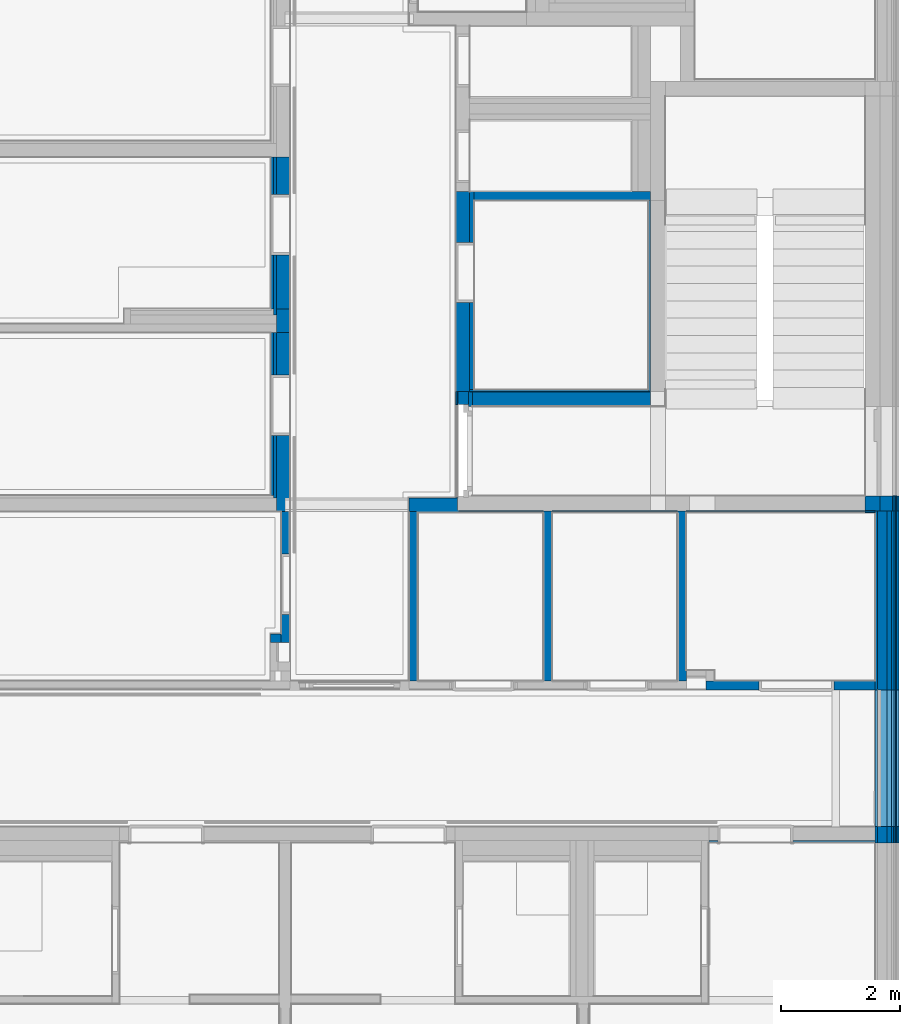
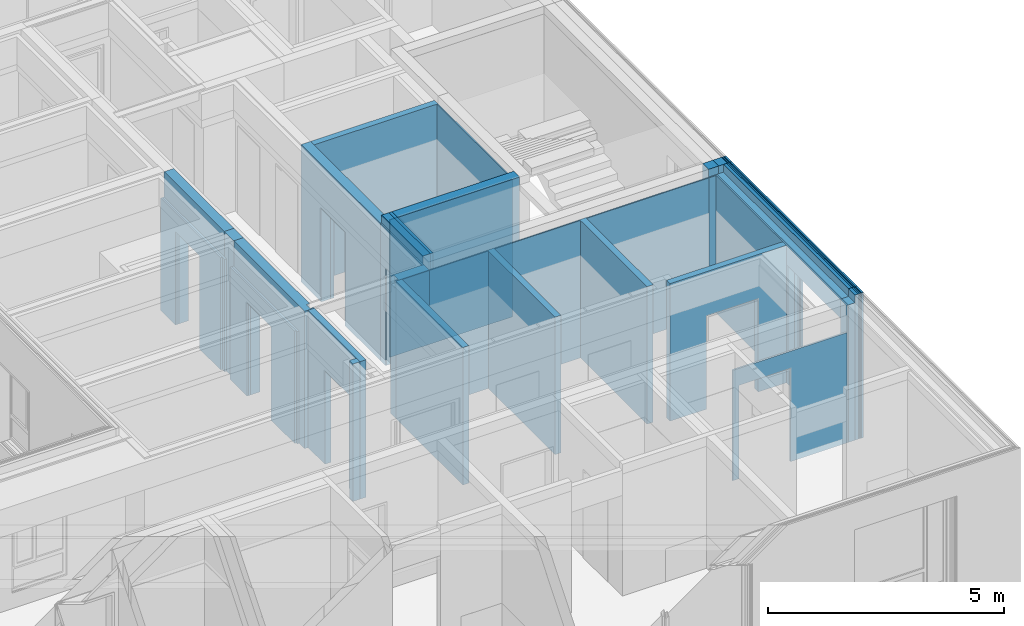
# One storey, part 51 of 222: 47 walls, 21 openings.
"""IFC4 building model written with IfcOpenShell, lengths in metres."""

from ifc_helpers import new_model, entity, si_unit, converted_unit, derived_unit, frame, frame_2d, origin, origin_with_axes, place, context, subcontext, project, spatial, polyline, rectangle, outline, extrude, clip, bounded_halfspace, material, element, save


model = new_model("IFC4")

# Units and contexts
model_context = context("Model", 3, precision=1e-05, world=origin())
body_context = subcontext(model_context, "Body", "Model", "MODEL_VIEW")
ifc_project = project(units=[si_unit("LENGTHUNIT", "METRE"), si_unit("AREAUNIT", "SQUARE_METRE"), si_unit("VOLUMEUNIT", "CUBIC_METRE"), si_unit("MASSUNIT", "GRAM", prefix="KILO"), converted_unit("PLANEANGLEUNIT", "DEGREE", entity("IfcPlaneAngleMeasure", 0.0174532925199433), si_unit("PLANEANGLEUNIT", "RADIAN"), dimensions=[0, 0, 0, 0, 0, 0, 0]), derived_unit("THERMALTRANSMITTANCEUNIT", [(si_unit("POWERUNIT", "WATT"), 1), (si_unit("THERMODYNAMICTEMPERATUREUNIT", "KELVIN"), -1), (si_unit("LENGTHUNIT", "METRE"), -2)]), derived_unit("VOLUMETRICFLOWRATEUNIT", [(si_unit("LENGTHUNIT", "METRE"), 3), (converted_unit("TIMEUNIT", "hour", entity("IfcTimeMeasure", 3600.0), si_unit("TIMEUNIT", "SECOND"), dimensions=[0, 0, 1, 0, 0, 0, 0]), -1), (si_unit("LENGTHUNIT", "METRE"), -1)])], contexts=[model_context])

# Site, building, storey
site_placement = place(None, origin())
site = spatial("IfcSite", under=ifc_project, at=site_placement, Name="Psychiatrie Neubau Wunstorf", CompositionType="ELEMENT")
building_placement = place(site_placement, origin())
building = spatial("IfcBuilding", under=site, at=building_placement, Name="Neubau H2 Stationsgebäude", CompositionType="ELEMENT")
storey_placement = place(building_placement, frame((0.0, 0.0, 3.6)))
storey = spatial("IfcBuildingStorey", under=building, at=storey_placement, Name="H2 Ebene +1", CompositionType="ELEMENT", Elevation=3.6)

# Wall, opening
ifc_material_1 = material(Name="WA-LB")
wall_1_placement = place(storey_placement, frame((105.889, 10.6249998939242, 0.0), z_axis=(0.0, 0.0, 1.0), x_axis=(0.0, -1.0, 0.0)))
wall_1 = element("IfcWall", 1, at=wall_1_placement, inside=storey, material=ifc_material_1, context=body_context, shape_type="SweptSolid", body=[
    extrude(rectangle(XDim=5.29249989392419, YDim=0.036, at=frame_2d((2.6462499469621, 0.018), x_axis=(1.0, 0.0))), origin_with_axes(), (0.0, 0.0, 1.0), 3.55),
])
opening_1_placement = place(wall_1_placement, frame((3.00624994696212, 0.0, 0.55), z_axis=(0.0, 1.0, 0.0), x_axis=(0.0, 0.0, 1.0)))
element("IfcOpeningElement", 2, at=opening_1_placement, cuts=wall_1, Name="Fensteröffnung", ObjectType="Opening", context=body_context, shape_type="SweptSolid", body=[
    extrude(outline(polyline([(2.5, 2.28), (2.5, 0.0), (0.0, 0.0), (0.0, 2.28), (2.5, 2.28)])), origin_with_axes(), (0.0, 0.0, 1.0), 0.036),
])

ifc_material_2 = material(Name="WA-HD")
wall_2_placement = place(storey_placement, frame((105.925, 10.6249998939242, 0.0), z_axis=(0.0, 0.0, 1.0), x_axis=(0.0, -1.0, 0.0)))
wall_2 = element("IfcWall", 3, at=wall_2_placement, inside=storey, material=ifc_material_2, context=body_context, shape_type="SweptSolid", body=[
    extrude(rectangle(XDim=5.29249989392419, YDim=0.16, at=frame_2d((2.6462499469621, 0.08), x_axis=(1.0, 0.0))), origin_with_axes(), (0.0, 0.0, 1.0), 3.55),
])
opening_2_placement = place(wall_2_placement, frame((3.00624994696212, 0.0, 0.55), z_axis=(0.0, 1.0, 0.0), x_axis=(0.0, 0.0, 1.0)))
element("IfcOpeningElement", 4, at=opening_2_placement, cuts=wall_2, Name="Fensteröffnung", ObjectType="Opening", context=body_context, shape_type="SweptSolid", body=[
    extrude(outline(polyline([(2.5, 2.28), (2.5, 0.0), (0.0, 0.0), (0.0, 2.28), (2.5, 2.28)])), origin_with_axes(), (0.0, 0.0, 1.0), 0.16),
])

ifc_material_3 = material(Name="WA-DL")
wall_3_placement = place(storey_placement, frame((106.085, 10.6249998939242, 0.0), z_axis=(0.0, 0.0, 1.0), x_axis=(0.0, -1.0, 0.0)))
wall_3 = element("IfcWall", 5, at=wall_3_placement, inside=storey, material=ifc_material_3, context=body_context, shape_type="SweptSolid", body=[
    extrude(rectangle(XDim=5.29249989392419, YDim=0.08, at=frame_2d((2.6462499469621, 0.04), x_axis=(1.0, 0.0))), origin_with_axes(), (0.0, 0.0, 1.0), 3.75),
])
opening_3_placement = place(wall_3_placement, frame((3.00624994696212, 0.0, 0.55), z_axis=(0.0, 1.0, 0.0), x_axis=(0.0, 0.0, 1.0)))
element("IfcOpeningElement", 6, at=opening_3_placement, cuts=wall_3, Name="Fensteröffnung", ObjectType="Opening", context=body_context, shape_type="SweptSolid", body=[
    extrude(outline(polyline([(2.5, 2.28), (2.5, 0.0), (0.0, 0.0), (0.0, 2.28), (2.5, 2.28)])), origin_with_axes(), (0.0, 0.0, 1.0), 0.08),
])

ifc_material_4 = material(Name="WA-LB")
wall_4_placement = place(storey_placement, frame((106.165, 10.6249998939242, 0.0), z_axis=(0.0, 0.0, 1.0), x_axis=(0.0, -1.0, 0.0)))
wall_4 = element("IfcWall", 7, at=wall_4_placement, inside=storey, material=ifc_material_4, context=body_context, shape_type="SweptSolid", body=[
    extrude(rectangle(XDim=5.29249989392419, YDim=0.036, at=frame_2d((2.6462499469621, 0.018), x_axis=(1.0, 0.0))), origin_with_axes(), (0.0, 0.0, 1.0), 3.75),
])
opening_4_placement = place(wall_4_placement, frame((3.00624994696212, 0.0, 0.55), z_axis=(0.0, 1.0, 0.0), x_axis=(0.0, 0.0, 1.0)))
element("IfcOpeningElement", 8, at=opening_4_placement, cuts=wall_4, Name="Fensteröffnung", ObjectType="Opening", context=body_context, shape_type="SweptSolid", body=[
    extrude(outline(polyline([(2.5, 2.28), (2.5, 0.0), (0.0, 0.0), (0.0, 2.28), (2.5, 2.28)])), origin_with_axes(), (0.0, 0.0, 1.0), 0.036),
])

ifc_material_5 = material(Name="WA-KL")
wall_5_placement = place(storey_placement, frame((106.201, 10.6249998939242, 0.0), z_axis=(0.0, 0.0, 1.0), x_axis=(0.0, -1.0, 0.0)))
wall_5 = element("IfcWall", 9, at=wall_5_placement, inside=storey, material=ifc_material_5, context=body_context, shape_type="SweptSolid", body=[
    extrude(rectangle(XDim=5.29249989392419, YDim=0.024, at=frame_2d((2.6462499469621, 0.012), x_axis=(1.0, 0.0))), origin_with_axes(), (0.0, 0.0, 1.0), 3.75),
])
opening_5_placement = place(wall_5_placement, frame((3.00624994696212, 0.0, 0.55), z_axis=(0.0, 1.0, 0.0), x_axis=(0.0, 0.0, 1.0)))
element("IfcOpeningElement", 10, at=opening_5_placement, cuts=wall_5, Name="Fensteröffnung", ObjectType="Opening", context=body_context, shape_type="SweptSolid", body=[
    extrude(outline(polyline([(2.5, 2.28), (2.5, 0.0), (0.0, 0.0), (0.0, 2.28), (2.5, 2.28)])), origin_with_axes(), (0.0, 0.0, 1.0), 0.024),
])

ifc_material_6 = material(Name="WA-TL")
wall_6_placement = place(storey_placement, frame((106.225, 10.6249998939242, 0.0), z_axis=(0.0, 0.0, 1.0), x_axis=(0.0, -1.0, 0.0)))
wall_6 = element("IfcWall", 11, at=wall_6_placement, inside=storey, material=ifc_material_6, context=body_context, shape_type="SweptSolid", body=[
    extrude(rectangle(XDim=5.29249989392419, YDim=0.024, at=frame_2d((2.6462499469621, 0.012), x_axis=(1.0, 0.0))), origin_with_axes(), (0.0, 0.0, 1.0), 3.75),
])
opening_6_placement = place(wall_6_placement, frame((3.00624994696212, 0.0, 0.55), z_axis=(0.0, 1.0, 0.0), x_axis=(0.0, 0.0, 1.0)))
element("IfcOpeningElement", 12, at=opening_6_placement, cuts=wall_6, Name="Fensteröffnung", ObjectType="Opening", context=body_context, shape_type="SweptSolid", body=[
    extrude(outline(polyline([(2.5, 2.28), (2.5, 0.0), (0.0, 0.0), (0.0, 2.28), (2.5, 2.28)])), origin_with_axes(), (0.0, 0.0, 1.0), 0.024),
])

ifc_material_7 = material(Name="WA-HS")
wall_7_placement = place(storey_placement, frame((106.249, 10.6249998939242, 0.0), z_axis=(0.0, 0.0, 1.0), x_axis=(0.0, -1.0, 0.0)))
wall_7 = element("IfcWall", 13, at=wall_7_placement, inside=storey, material=ifc_material_7, context=body_context, shape_type="SweptSolid", body=[
    extrude(rectangle(XDim=5.29249989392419, YDim=0.042, at=frame_2d((2.6462499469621, 0.021), x_axis=(1.0, 0.0))), origin_with_axes(), (0.0, 0.0, 1.0), 3.75),
])
opening_7_placement = place(wall_7_placement, frame((3.00624994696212, 0.0, 0.55), z_axis=(0.0, 1.0, 0.0), x_axis=(0.0, 0.0, 1.0)))
element("IfcOpeningElement", 14, at=opening_7_placement, cuts=wall_7, Name="Fensteröffnung", ObjectType="Opening", context=body_context, shape_type="SweptSolid", body=[
    extrude(outline(polyline([(2.5, 2.28), (2.5, 0.0), (0.0, 0.0), (0.0, 2.28), (2.5, 2.28)])), origin_with_axes(), (0.0, 0.0, 1.0), 0.042),
])

# Walls
ifc_material_8 = material(Name="WA-LB")
wall_8_placement = place(storey_placement, frame((105.889, 5.33250000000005, 0.0), z_axis=(0.0, 0.0, 1.0), x_axis=(0.0, -1.0, 0.0)))
element("IfcWall", 15, at=wall_8_placement, inside=storey, material=ifc_material_8, Name="2x Gipsfaserplatte", context=body_context, shape_type="SweptSolid", body=[
    extrude(rectangle(XDim=0.271999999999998, YDim=0.036, at=frame_2d((0.135999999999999, 0.018), x_axis=(1.0, 0.0))), origin_with_axes(), (0.0, 0.0, 1.0), 3.55),
])
ifc_material_9 = material(Name="WA-HD")
wall_9_placement = place(storey_placement, frame((105.925, 5.33250000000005, 0.0), z_axis=(0.0, 0.0, 1.0), x_axis=(0.0, -1.0, 0.0)))
element("IfcWall", 16, at=wall_9_placement, inside=storey, material=ifc_material_9, Name="Holzständer + Zwischendämmung", context=body_context, shape_type="SweptSolid", body=[
    extrude(rectangle(XDim=0.271999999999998, YDim=0.16, at=frame_2d((0.135999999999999, 0.08), x_axis=(1.0, 0.0))), origin_with_axes(), (0.0, 0.0, 1.0), 3.55),
])
ifc_material_10 = material(Name="WA-DL")
wall_10_placement = place(storey_placement, frame((106.085, 5.33250000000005, 0.0), z_axis=(0.0, 0.0, 1.0), x_axis=(0.0, -1.0, 0.0)))
element("IfcWall", 17, at=wall_10_placement, inside=storey, material=ifc_material_10, Name="Staffel + Zwischendämmung", context=body_context, shape_type="SweptSolid", body=[
    extrude(rectangle(XDim=0.271999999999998, YDim=0.08, at=frame_2d((0.135999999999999, 0.04), x_axis=(1.0, 0.0))), origin_with_axes(), (0.0, 0.0, 1.0), 3.75),
])
ifc_material_11 = material(Name="WA-LB")
wall_11_placement = place(storey_placement, frame((106.165, 5.33250000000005, 0.0), z_axis=(0.0, 0.0, 1.0), x_axis=(0.0, -1.0, 0.0)))
element("IfcWall", 18, at=wall_11_placement, inside=storey, material=ifc_material_11, context=body_context, shape_type="SweptSolid", body=[
    extrude(rectangle(XDim=0.271999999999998, YDim=0.036, at=frame_2d((0.135999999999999, 0.018), x_axis=(1.0, 0.0))), origin_with_axes(), (0.0, 0.0, 1.0), 3.75),
])
ifc_material_12 = material(Name="WA-KL")
wall_12_placement = place(storey_placement, frame((106.201, 5.33250000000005, 0.0), z_axis=(0.0, 0.0, 1.0), x_axis=(0.0, -1.0, 0.0)))
element("IfcWall", 19, at=wall_12_placement, inside=storey, material=ifc_material_12, Name="Konterlattung", context=body_context, shape_type="SweptSolid", body=[
    extrude(rectangle(XDim=0.271999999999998, YDim=0.024, at=frame_2d((0.135999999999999, 0.012), x_axis=(1.0, 0.0))), origin_with_axes(), (0.0, 0.0, 1.0), 3.75),
])
ifc_material_13 = material(Name="WA-TL")
wall_13_placement = place(storey_placement, frame((106.225, 5.33250000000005, 0.0), z_axis=(0.0, 0.0, 1.0), x_axis=(0.0, -1.0, 0.0)))
element("IfcWall", 20, at=wall_13_placement, inside=storey, material=ifc_material_13, Name="Traglattung", context=body_context, shape_type="SweptSolid", body=[
    extrude(rectangle(XDim=0.271999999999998, YDim=0.024, at=frame_2d((0.135999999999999, 0.012), x_axis=(1.0, 0.0))), origin_with_axes(), (0.0, 0.0, 1.0), 3.75),
])
ifc_material_14 = material(Name="WA-HS")
wall_14_placement = place(storey_placement, frame((106.249, 5.33250000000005, 0.0), z_axis=(0.0, 0.0, 1.0), x_axis=(0.0, -1.0, 0.0)))
element("IfcWall", 21, at=wall_14_placement, inside=storey, material=ifc_material_14, Name="Holzschindel", context=body_context, shape_type="SweptSolid", body=[
    extrude(rectangle(XDim=0.271999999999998, YDim=0.042, at=frame_2d((0.135999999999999, 0.021), x_axis=(1.0, 0.0))), origin_with_axes(), (0.0, 0.0, 1.0), 3.75),
])
ifc_material_15 = material(Name="WA-STB")
wall_15_placement = place(storey_placement, frame((105.72, 10.8749998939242, 0.0), z_axis=(0.0, 0.0, 1.0), x_axis=(0.0, -1.0, 0.0)))
element("IfcWall", 22, at=wall_15_placement, inside=storey, material=ifc_material_15, context=body_context, shape_type="SweptSolid", body=[
    extrude(rectangle(XDim=0.249999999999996, YDim=0.25, at=frame_2d((0.124999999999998, 0.125), x_axis=(1.0, 0.0))), origin_with_axes(), (0.0, 0.0, 1.0), 3.75),
])
ifc_material_16 = material(Name="WA-DL")
wall_16_placement = place(storey_placement, frame((105.97, 10.8749998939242, 0.0), z_axis=(0.0, 0.0, 1.0), x_axis=(0.0, -1.0, 0.0)))
element("IfcWall", 23, at=wall_16_placement, inside=storey, material=ifc_material_16, context=body_context, shape_type="SweptSolid", body=[
    extrude(rectangle(XDim=0.249999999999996, YDim=0.21, at=frame_2d((0.124999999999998, 0.105), x_axis=(1.0, 0.0))), origin_with_axes(), (0.0, 0.0, 1.0), 3.75),
])
ifc_material_17 = material(Name="WA-LB")
wall_17_placement = place(storey_placement, frame((106.18, 10.8749998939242, 0.0), z_axis=(0.0, 0.0, 1.0), x_axis=(0.0, -1.0, 0.0)))
element("IfcWall", 24, at=wall_17_placement, inside=storey, material=ifc_material_17, context=body_context, shape_type="SweptSolid", body=[
    extrude(rectangle(XDim=0.249999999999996, YDim=0.021, at=frame_2d((0.124999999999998, 0.0105), x_axis=(1.0, 0.0))), origin_with_axes(), (0.0, 0.0, 1.0), 3.75),
])
ifc_material_18 = material(Name="WA-KL")
wall_18_placement = place(storey_placement, frame((106.201, 10.8749998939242, 0.0), z_axis=(0.0, 0.0, 1.0), x_axis=(0.0, -1.0, 0.0)))
element("IfcWall", 25, at=wall_18_placement, inside=storey, material=ifc_material_18, context=body_context, shape_type="SweptSolid", body=[
    extrude(rectangle(XDim=0.249999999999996, YDim=0.024, at=frame_2d((0.124999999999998, 0.012), x_axis=(1.0, 0.0))), origin_with_axes(), (0.0, 0.0, 1.0), 3.75),
])
ifc_material_19 = material(Name="WA-TL")
wall_19_placement = place(storey_placement, frame((106.225, 10.8749998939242, 0.0), z_axis=(0.0, 0.0, 1.0), x_axis=(0.0, -1.0, 0.0)))
element("IfcWall", 26, at=wall_19_placement, inside=storey, material=ifc_material_19, context=body_context, shape_type="SweptSolid", body=[
    extrude(rectangle(XDim=0.249999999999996, YDim=0.024, at=frame_2d((0.124999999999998, 0.012), x_axis=(1.0, 0.0))), origin_with_axes(), (0.0, 0.0, 1.0), 3.75),
])
ifc_material_20 = material(Name="WA-HS")
wall_20_placement = place(storey_placement, frame((106.249, 10.8749998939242, 0.0), z_axis=(0.0, 0.0, 1.0), x_axis=(0.0, -1.0, 0.0)))
element("IfcWall", 27, at=wall_20_placement, inside=storey, material=ifc_material_20, context=body_context, shape_type="SweptSolid", body=[
    extrude(rectangle(XDim=0.249999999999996, YDim=0.042, at=frame_2d((0.124999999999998, 0.021), x_axis=(1.0, 0.0))), origin_with_axes(), (0.0, 0.0, 1.0), 3.75),
])
ifc_material_21 = material(Name="WI-LB")
wall_21_placement = place(storey_placement, frame((102.12, 15.9749998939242, 0.0), z_axis=(0.0, 0.0, 1.0), x_axis=(-1.0, 0.0, 0.0)))
element("IfcWall", 28, at=wall_21_placement, inside=storey, material=ifc_material_21, context=body_context, shape_type="SweptSolid", body=[
    extrude(rectangle(XDim=3.029, YDim=0.15, at=frame_2d((1.5145, 0.075), x_axis=(1.0, 0.0))), origin_with_axes(), (0.0, 0.0, 1.0), 3.55),
])
ifc_material_22 = material(Name="WI-LB")
wall_22_placement = place(storey_placement, frame((102.575, 10.6249998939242, 0.0), z_axis=(0.0, 0.0, 1.0), x_axis=(0.0, -1.0, 0.0)))
element("IfcWall", 29, at=wall_22_placement, inside=storey, material=ifc_material_22, context=body_context, shape_type="SweptSolid", body=[
    extrude(rectangle(XDim=2.85000000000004, YDim=0.15, at=frame_2d((1.42500000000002, 0.075), x_axis=(1.0, 0.0))), origin_with_axes(), (0.0, 0.0, 1.0), 3.55),
])
ifc_material_23 = material(Name="WI-LB")
wall_23_placement = place(storey_placement, frame((100.325, 10.6249998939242, 0.0), z_axis=(0.0, 0.0, 1.0), x_axis=(0.0, -1.0, 0.0)))
element("IfcWall", 30, at=wall_23_placement, inside=storey, material=ifc_material_23, context=body_context, shape_type="SweptSolid", body=[
    extrude(rectangle(XDim=2.85000000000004, YDim=0.15, at=frame_2d((1.42500000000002, 0.075), x_axis=(1.0, 0.0))), origin_with_axes(), (0.0, 0.0, 1.0), 3.55),
])
ifc_material_24 = material(Name="WI-LB")
wall_24_placement = place(storey_placement, frame((99.0909999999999, 12.6250013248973, 0.0), z_axis=(0.0, 0.0, 1.0), x_axis=(0.999999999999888, -4.72424244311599e-07, 0.0)))
element("IfcWall", 31, at=wall_24_placement, inside=storey, material=ifc_material_24, context=body_context, shape_type="SweptSolid", body=[
    extrude(rectangle(XDim=2.99900036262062, YDim=0.0299996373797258, at=frame_2d((1.49950018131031, 0.0149998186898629), x_axis=(1.0, 0.0))), origin_with_axes(), (0.0, 0.0, 1.0), 3.55),
])
ifc_material_25 = material(Name="WI-HW 60")
wall_25_placement = place(storey_placement, frame((96.0824999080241, 13.6109999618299, 0.0), z_axis=(0.0, 0.0, 1.0), x_axis=(0.0, 1.0, 0.0)))
element("IfcWall", 32, at=wall_25_placement, inside=storey, material=ifc_material_25, context=body_context, shape_type="SweptSolid", body=[
    extrude(rectangle(XDim=0.4, YDim=0.232, at=frame_2d((0.2, 0.116), x_axis=(1.0, 0.0))), origin_with_axes(), (0.0, 0.0, 1.0), 3.55),
])

# Wall, opening
ifc_material_26 = material(Name="WI-LB")
wall_26_placement = place(storey_placement, frame((95.7609999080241, 13.6109999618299, 0.0), z_axis=(0.0, 0.0, 1.0), x_axis=(0.0, -1.0, 0.0)))
wall_26 = element("IfcWall", 33, at=wall_26_placement, inside=storey, material=ifc_material_26, context=body_context, shape_type="SweptSolid", body=[
    extrude(rectangle(XDim=2.72850006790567, YDim=0.0395, at=frame_2d((1.36425003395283, 0.01975), x_axis=(1.0, 0.0))), origin_with_axes(), (0.0, 0.0, 1.0), 2.9),
])
opening_8_placement = place(wall_26_placement, frame((1.72099996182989, 0.0395, 0.0), z_axis=(0.0, -1.0, 0.0), x_axis=(0.0, 0.0, 1.0)))
element("IfcOpeningElement", 34, at=opening_8_placement, cuts=wall_26, Name="Türöffnung", ObjectType="Opening", context=body_context, shape_type="SweptSolid", body=[
    extrude(outline(polyline([(2.41, 1.01), (2.41, 0.0), (0.0, 0.0), (0.0, 1.01), (2.41, 1.01)])), origin_with_axes(), (0.0, 0.0, 1.0), 0.0395),
])

ifc_material_27 = material(Name="Installationsraum")
wall_27_placement = place(storey_placement, frame((95.8004999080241, 13.6109999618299, 0.0), z_axis=(0.0, 0.0, 1.0), x_axis=(0.0, -1.0, 0.0)))
wall_27 = element("IfcWall", 35, at=wall_27_placement, inside=storey, material=ifc_material_27, context=body_context, shape_type="SweptSolid", body=[
    extrude(rectangle(XDim=2.76850006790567, YDim=0.05, at=frame_2d((1.38425003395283, 0.025), x_axis=(1.0, 0.0))), origin_with_axes(), (0.0, 0.0, 1.0), 2.9),
])
opening_9_placement = place(wall_27_placement, frame((1.72099996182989, 0.05, 0.0), z_axis=(0.0, -1.0, 0.0), x_axis=(0.0, 0.0, 1.0)))
element("IfcOpeningElement", 36, at=opening_9_placement, cuts=wall_27, Name="Türöffnung", ObjectType="Opening", context=body_context, shape_type="SweptSolid", body=[
    extrude(outline(polyline([(2.41, 1.01), (2.41, 0.0), (0.0, 0.0), (0.0, 1.01), (2.41, 1.01)])), origin_with_axes(), (0.0, 0.0, 1.0), 0.05),
])

ifc_material_28 = material(Name="WI-HW 60")
wall_28_placement = place(storey_placement, frame((95.8504999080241, 13.6109999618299, 0.0), z_axis=(0.0, 0.0, 1.0), x_axis=(0.0, -1.0, 0.0)))
wall_28 = element("IfcWall", 37, at=wall_28_placement, inside=storey, material=ifc_material_28, context=body_context, shape_type="Clipping", body=[
    clip(extrude(rectangle(XDim=3.00050006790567, YDim=0.232, at=frame_2d((1.50025003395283, 0.116), x_axis=(1.0, 0.0))), origin_with_axes(), (0.0, 0.0, 1.0), 3.55), bounded_halfspace(frame((2.88449781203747, 0.190751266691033, 3.35), z_axis=(0.0, 0.0, -1.0), x_axis=(1.0, 0.0, 0.0)), True, origin_with_axes(), polyline([(2.80449781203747, 0.149502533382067), (2.96449781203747, 0.149502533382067), (2.96449781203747, 0.232), (2.80449781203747, 0.232), (2.80449781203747, 0.149502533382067)]))),
])
opening_10_placement = place(wall_28_placement, frame((1.72099996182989, 0.232, 0.0), z_axis=(0.0, -1.0, 0.0), x_axis=(0.0, 0.0, 1.0)))
element("IfcOpeningElement", 38, at=opening_10_placement, cuts=wall_28, Name="Türöffnung", ObjectType="Opening", context=body_context, shape_type="SweptSolid", body=[
    extrude(outline(polyline([(2.41, 1.01), (2.41, 0.0), (0.0, 0.0), (0.0, 1.01), (2.41, 1.01)])), origin_with_axes(), (0.0, 0.0, 1.0), 0.232),
])

ifc_material_29 = material(Name="WI-LB")
wall_29_placement = place(storey_placement, frame((95.7609999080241, 16.5535, 0.0), z_axis=(0.0, 0.0, 1.0), x_axis=(0.0, -1.0, 0.0)))
wall_29 = element("IfcWall", 39, at=wall_29_placement, inside=storey, material=ifc_material_29, context=body_context, shape_type="SweptSolid", body=[
    extrude(rectangle(XDim=2.54250003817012, YDim=0.0395, at=frame_2d((1.27125001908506, 0.01975), x_axis=(1.0, 0.0))), origin_with_axes(), (0.0, 0.0, 1.0), 2.9),
])
opening_11_placement = place(wall_29_placement, frame((1.63849999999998, 0.0395, 0.0), z_axis=(0.0, -1.0, 0.0), x_axis=(0.0, 0.0, 1.0)))
element("IfcOpeningElement", 40, at=opening_11_placement, cuts=wall_29, Name="Türöffnung", ObjectType="Opening", context=body_context, shape_type="SweptSolid", body=[
    extrude(outline(polyline([(2.41, 1.01), (2.41, 0.0), (0.0, 0.0), (0.0, 1.01), (2.41, 1.01)])), origin_with_axes(), (0.0, 0.0, 1.0), 0.0395),
])

ifc_material_30 = material(Name="Installationsraum")
wall_30_placement = place(storey_placement, frame((95.8004999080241, 16.5535, 0.0), z_axis=(0.0, 0.0, 1.0), x_axis=(0.0, -1.0, 0.0)))
wall_30 = element("IfcWall", 41, at=wall_30_placement, inside=storey, material=ifc_material_30, context=body_context, shape_type="SweptSolid", body=[
    extrude(rectangle(XDim=2.64250003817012, YDim=0.05, at=frame_2d((1.32125001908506, 0.025), x_axis=(1.0, 0.0))), origin_with_axes(), (0.0, 0.0, 1.0), 2.9),
])
opening_12_placement = place(wall_30_placement, frame((1.63849999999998, 0.05, 0.0), z_axis=(0.0, -1.0, 0.0), x_axis=(0.0, 0.0, 1.0)))
element("IfcOpeningElement", 42, at=opening_12_placement, cuts=wall_30, Name="Türöffnung", ObjectType="Opening", context=body_context, shape_type="SweptSolid", body=[
    extrude(outline(polyline([(2.41, 1.01), (2.41, 0.0), (0.0, 0.0), (0.0, 1.01), (2.41, 1.01)])), origin_with_axes(), (0.0, 0.0, 1.0), 0.05),
])

ifc_material_31 = material(Name="WI-HW 60")
wall_31_placement = place(storey_placement, frame((95.8504999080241, 16.5535, 0.0), z_axis=(0.0, 0.0, 1.0), x_axis=(0.0, -1.0, 0.0)))
wall_31 = element("IfcWall", 43, at=wall_31_placement, inside=storey, material=ifc_material_31, context=body_context, shape_type="SweptSolid", body=[
    extrude(rectangle(XDim=2.54250003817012, YDim=0.232, at=frame_2d((1.27125001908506, 0.116), x_axis=(1.0, 0.0))), origin_with_axes(), (0.0, 0.0, 1.0), 3.55),
])
opening_13_placement = place(wall_31_placement, frame((1.63849999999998, 0.232, 0.0), z_axis=(0.0, -1.0, 0.0), x_axis=(0.0, 0.0, 1.0)))
element("IfcOpeningElement", 44, at=opening_13_placement, cuts=wall_31, Name="Türöffnung", ObjectType="Opening", context=body_context, shape_type="SweptSolid", body=[
    extrude(outline(polyline([(2.41, 1.01), (2.41, 0.0), (0.0, 0.0), (0.0, 1.01), (2.41, 1.01)])), origin_with_axes(), (0.0, 0.0, 1.0), 0.232),
])

# Walls
ifc_material_32 = material(Name="WI-LB")
wall_32_placement = place(storey_placement, frame((98.075, 10.6105021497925, 0.0), z_axis=(0.0, 0.0, 1.0), x_axis=(0.0, -1.0, 0.0)))
element("IfcWall", 45, at=wall_32_placement, inside=storey, material=ifc_material_32, context=body_context, shape_type="SweptSolid", body=[
    extrude(rectangle(XDim=2.83550225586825, YDim=0.15, at=frame_2d((1.41775112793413, 0.075), x_axis=(1.0, 0.0))), origin_with_axes(), (0.0, 0.0, 1.0), 3.55),
])
ifc_material_33 = material(Name="WI-LB")
wall_33_placement = place(storey_placement, frame((98.225, 10.5950021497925, 0.0)))
element("IfcWall", 46, at=wall_33_placement, inside=storey, material=ifc_material_33, context=body_context, shape_type="SweptSolid", body=[
    extrude(rectangle(XDim=0.664000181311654, YDim=0.0155, at=frame_2d((0.332000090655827, 0.00775), x_axis=(1.0, 0.0))), origin_with_axes(), (0.0, 0.0, 1.0), 3.55),
])
ifc_material_34 = material(Name="WI-HW 60")
wall_34_placement = place(storey_placement, frame((98.075, 10.6105021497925, 0.0)))
element("IfcWall", 47, at=wall_34_placement, inside=storey, material=ifc_material_34, context=body_context, shape_type="Clipping", body=[
    clip(extrude(rectangle(XDim=0.814000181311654, YDim=0.232, at=frame_2d((0.407000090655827, 0.116), x_axis=(1.0, 0.0))), origin_with_axes(), (0.0, 0.0, 1.0), 3.55), bounded_halfspace(frame((0.037501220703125, 0.115999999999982, 3.35), z_axis=(0.0, 0.0, -1.0), x_axis=(0.0, -1.0, 0.0)), True, origin_with_axes(), polyline([(0.0, 0.195999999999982), (0.0, 0.0359999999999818), (0.0750024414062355, 0.0359999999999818), (0.0750024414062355, 0.195999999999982), (0.0, 0.195999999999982)]))),
])

# Wall, opening
ifc_material_35 = material(Name="WI-LB")
wall_35_placement = place(storey_placement, frame((95.93250003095, 10.6104998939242, 0.0), z_axis=(0.0, 0.0, 1.0), x_axis=(0.0, -1.0, 0.0)))
wall_35 = element("IfcWall", 48, at=wall_35_placement, inside=storey, material=ifc_material_35, context=body_context, shape_type="SweptSolid", body=[
    extrude(outline(polyline([(-2.19550000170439, 0.0), (0.0, 0.0), (0.0, 0.14999999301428), (-2.19550000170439, 0.149999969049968), (-2.19550000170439, 0.0)])), frame((2.19550000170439, 0.0, 0.0), z_axis=(0.0, 0.0, 1.0), x_axis=(1.0, 0.0, 0.0)), (0.0, 0.0, 1.0), 3.55),
])
opening_14_placement = place(wall_35_placement, frame((1.72049989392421, 0.15, 0.0), z_axis=(0.0, -1.0, 0.0), x_axis=(0.0, 0.0, 1.0)))
element("IfcOpeningElement", 49, at=opening_14_placement, cuts=wall_35, Name="Türöffnung", ObjectType="Opening", context=body_context, shape_type="SweptSolid", body=[
    extrude(outline(polyline([(2.41, 1.01), (2.41, 0.0), (0.0, 0.0), (0.0, 1.01), (2.41, 1.01)])), origin_with_axes(), (0.0, 0.0, 1.0), 0.15),
])

ifc_material_36 = material(Name="WI-LB")
wall_36_placement = place(storey_placement, frame((103.05, 7.6249998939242, 0.0)))
wall_36 = element("IfcWall", 50, at=wall_36_placement, inside=storey, material=ifc_material_36, context=body_context, shape_type="SweptSolid", body=[
    extrude(rectangle(XDim=2.83899999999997, YDim=0.15, at=frame_2d((1.41949999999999, 0.075), x_axis=(1.0, 0.0))), origin_with_axes(), (0.0, 0.0, 1.0), 3.55),
])
opening_15_placement = place(wall_36_placement, frame((2.14999999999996, 0.15, 0.0), z_axis=(0.0, -1.0, 0.0), x_axis=(0.0, 0.0, 1.0)))
element("IfcOpeningElement", 51, at=opening_15_placement, cuts=wall_36, Name="Türöffnung", ObjectType="Opening", context=body_context, shape_type="SweptSolid", body=[
    extrude(outline(polyline([(2.41, 1.26), (2.41, 0.0), (0.0, 0.0), (0.0, 1.26), (2.41, 1.26)])), origin_with_axes(), (0.0, 0.0, 1.0), 0.15),
])

ifc_material_37 = material(Name="WI-STB")
wall_37_placement = place(storey_placement, frame((99.1389999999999, 10.8749998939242, 0.0), z_axis=(0.0, 0.0, 1.0), x_axis=(0.0, 1.0, 0.0)))
wall_37 = element("IfcWall", 52, at=wall_37_placement, inside=storey, material=ifc_material_37, context=body_context, shape_type="SweptSolid", body=[
    extrude(rectangle(XDim=1.75000140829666, YDim=0.07, at=frame_2d((0.87500070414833, 0.035), x_axis=(1.0, 0.0))), origin_with_axes(), (0.0, 0.0, 1.0), 3.75),
])
opening_16_placement = place(wall_37_placement, frame((1.49999999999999, 0.07, 0.0), z_axis=(0.0, -1.0, 0.0), x_axis=(0.0, 0.0, 1.0)))
element("IfcOpeningElement", 53, at=opening_16_placement, cuts=wall_37, Name="Türöffnung", ObjectType="Opening", context=body_context, shape_type="SweptSolid", body=[
    extrude(outline(polyline([(2.5, 1.49999999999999), (2.5, 0.0), (0.0, 0.0), (0.0, 1.49999999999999), (2.5, 1.49999999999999)])), origin_with_axes(), (0.0, 0.0, 1.0), 0.07),
])

ifc_material_38 = material(Name="WI-STB")
wall_38_placement = place(storey_placement, frame((99.0689999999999, 10.8749998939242, 0.0), z_axis=(0.0, 0.0, 1.0), x_axis=(0.0, 1.0, 0.0)))
wall_38 = element("IfcWall", 54, at=wall_38_placement, inside=storey, material=ifc_material_38, context=body_context, shape_type="SweptSolid", body=[
    extrude(outline(polyline([(0.0300000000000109, -0.18), (1.78000140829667, -0.18), (1.78000140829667, 0.0), (0.0, 0.0), (0.0300000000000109, -1.8131168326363e-07), (0.0300000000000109, -0.18)])), frame((-0.0300000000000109, 0.18, 0.0), z_axis=(0.0, 0.0, 1.0), x_axis=(1.0, 0.0, 0.0)), (0.0, 0.0, 1.0), 3.75),
])
opening_17_placement = place(wall_38_placement, frame((1.52999999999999, 0.18, 0.0), z_axis=(0.0, 0.0, 1.0), x_axis=(-1.0, 0.0, 0.0)))
element("IfcOpeningElement", 55, at=opening_17_placement, cuts=wall_38, Name="Türöffnung", ObjectType="Opening", context=body_context, shape_type="SweptSolid", body=[
    extrude(outline(polyline([(0.0, 0.0), (1.56, 0.0), (1.52999999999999, 0.18), (0.0, 0.18), (0.0, 0.0)])), origin_with_axes(), (0.0, 0.0, 1.0), 2.53),
])

ifc_material_39 = material(Name="WI-LB")
wall_39_placement = place(storey_placement, frame((98.8889999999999, 10.8425021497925, 0.0), z_axis=(0.0, 0.0, 1.0), x_axis=(0.0, 1.0, 0.0)))
wall_39 = element("IfcWall", 56, at=wall_39_placement, inside=storey, material=ifc_material_39, context=body_context, shape_type="SweptSolid", body=[
    extrude(rectangle(XDim=1.78249915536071, YDim=0.0299996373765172, at=frame_2d((0.891249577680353, 0.0149998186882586), x_axis=(1.0, 0.0))), origin_with_axes(), (0.0, 0.0, 1.0), 3.55),
])
opening_18_placement = place(wall_39_placement, frame((1.56249774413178, 0.0299996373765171, 0.0), z_axis=(0.0, -1.0, 0.0), x_axis=(0.0, 0.0, 1.0)))
element("IfcOpeningElement", 57, at=opening_18_placement, cuts=wall_39, Name="Türöffnung", ObjectType="Opening", context=body_context, shape_type="SweptSolid", body=[
    extrude(outline(polyline([(2.53, 1.56), (2.53, 0.0), (0.0, 0.0), (0.0, 1.56), (2.53, 1.56)])), origin_with_axes(), (0.0, 0.0, 1.0), 0.0299996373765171),
])

ifc_material_40 = material(Name="WI-LB")
wall_40_placement = place(storey_placement, frame((105.889, 5.10050000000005, 0.0), z_axis=(0.0, 0.0, 1.0), x_axis=(-1.0, 0.0, 0.0)))
wall_40 = element("IfcWall", 58, at=wall_40_placement, inside=storey, material=ifc_material_40, context=body_context, shape_type="SweptSolid", body=[
    extrude(rectangle(XDim=2.789, YDim=0.04, at=frame_2d((1.3945, 0.02), x_axis=(1.0, 0.0))), origin_with_axes(), (0.0, 0.0, 1.0), 2.85),
])
opening_19_placement = place(wall_40_placement, frame((1.379, 0.0, 0.0), z_axis=(0.0, 1.0, 0.0), x_axis=(0.0, 0.0, 1.0)))
element("IfcOpeningElement", 59, at=opening_19_placement, cuts=wall_40, Name="Türöffnung", ObjectType="Opening", context=body_context, shape_type="SweptSolid", body=[
    extrude(outline(polyline([(2.41, 1.26), (2.41, 0.0), (0.0, 0.0), (0.0, 1.26), (2.41, 1.26)])), origin_with_axes(), (0.0, 0.0, 1.0), 0.04),
])

# Walls
ifc_material_41 = material(Name="WI-LB")
wall_41_placement = place(storey_placement, frame((105.889, 10.6249998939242, 0.0), z_axis=(0.0, 0.0, 1.0), x_axis=(-1.0, 0.0, 0.0)))
element("IfcWall", 60, at=wall_41_placement, inside=storey, material=ifc_material_41, context=body_context, shape_type="SweptSolid", body=[
    extrude(rectangle(XDim=0.169, YDim=0.0299996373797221, at=frame_2d((0.0845, 0.0149998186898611), x_axis=(1.0, 0.0))), origin_with_axes(), (0.0, 0.0, 1.0), 3.55),
])
ifc_material_42 = material(Name="WI-LB")
wall_42_placement = place(storey_placement, frame((95.93250003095, 8.56499989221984, 0.0), z_axis=(0.0, 0.0, 1.0), x_axis=(-1.0, 0.0, 0.0)))
element("IfcWall", 61, at=wall_42_placement, inside=storey, material=ifc_material_42, context=body_context, shape_type="SweptSolid", body=[
    extrude(rectangle(XDim=0.174999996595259, YDim=0.15, at=frame_2d((0.0874999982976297, 0.075), x_axis=(1.0, 0.0))), origin_with_axes(), (0.0, 0.0, 1.0), 3.55),
])

# Wall, opening
ifc_material_43 = material(Name="WI-LB")
wall_43_placement = place(storey_placement, frame((99.1659999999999, 12.6550009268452, 0.0), z_axis=(0.0, 0.0, 1.0), x_axis=(0.0, 1.0, 0.0)))
wall_43 = element("IfcWall", 62, at=wall_43_placement, inside=storey, material=ifc_material_43, context=body_context, shape_type="SweptSolid", body=[
    extrude(rectangle(XDim=3.31999896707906, YDim=0.075, at=frame_2d((1.65999948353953, 0.0375), x_axis=(1.0, 0.0))), origin_with_axes(), (0.0, 0.0, 1.0), 2.85),
])
opening_20_placement = place(wall_43_placement, frame((2.47000039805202, 0.075, 0.0), z_axis=(0.0, -1.0, 0.0), x_axis=(0.0, 0.0, 1.0)))
element("IfcOpeningElement", 63, at=opening_20_placement, cuts=wall_43, Name="Türöffnung", ObjectType="Opening", context=body_context, shape_type="SweptSolid", body=[
    extrude(outline(polyline([(2.41, 1.01), (2.41, 0.0), (0.0, 0.0), (0.0, 1.01), (2.41, 1.01)])), origin_with_axes(), (0.0, 0.0, 1.0), 0.075),
])

ifc_material_44 = material(Name="WI-HW 60")
wall_44_placement = place(storey_placement, frame((99.0909999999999, 12.6250013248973, 0.0), z_axis=(0.0, 0.0, 1.0), x_axis=(0.0, 1.0, 0.0)))
wall_44 = element("IfcWall", 64, at=wall_44_placement, inside=storey, material=ifc_material_44, context=body_context, shape_type="SweptSolid", body=[
    extrude(rectangle(XDim=3.34999856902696, YDim=0.232, at=frame_2d((1.67499928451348, 0.116), x_axis=(1.0, 0.0))), origin_with_axes(), (0.0, 0.0, 1.0), 3.55),
])
opening_21_placement = place(wall_44_placement, frame((2.49999999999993, 0.232, 0.0), z_axis=(0.0, -1.0, 0.0), x_axis=(0.0, 0.0, 1.0)))
element("IfcOpeningElement", 65, at=opening_21_placement, cuts=wall_44, Name="Türöffnung", ObjectType="Opening", context=body_context, shape_type="SweptSolid", body=[
    extrude(outline(polyline([(2.41, 1.01), (2.41, 0.0), (0.0, 0.0), (0.0, 1.01), (2.41, 1.01)])), origin_with_axes(), (0.0, 0.0, 1.0), 0.232),
])

# Walls
ifc_material_45 = material(Name="WI-LB")
wall_45_placement = place(storey_placement, frame((102.09000036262, 15.8249998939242, 0.0), z_axis=(0.0, 0.0, 1.0), x_axis=(0.0, -1.0, 0.0)))
element("IfcWall", 66, at=wall_45_placement, inside=storey, material=ifc_material_45, context=body_context, shape_type="SweptSolid", body=[
    extrude(rectangle(XDim=3.2, YDim=0.0299996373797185, at=frame_2d((1.6, 0.0149998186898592), x_axis=(1.0, 0.0))), origin_with_axes(), (0.0, 0.0, 1.0), 3.55),
])
ifc_material_46 = material(Name="WI-STB")
wall_46_placement = place(storey_placement, frame((102.12, 12.6249998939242, 0.0), z_axis=(0.0, 0.0, 1.0), x_axis=(-1.0, 0.0, 0.0)))
element("IfcWall", 67, at=wall_46_placement, inside=storey, material=ifc_material_46, context=body_context, shape_type="SweptSolid", body=[
    extrude(rectangle(XDim=2.981, YDim=0.25, at=frame_2d((1.4905, 0.125), x_axis=(1.0, 0.0))), origin_with_axes(), (0.0, 0.0, 1.0), 3.75),
])
ifc_material_47 = material(Name="WI-LB")
wall_47_placement = place(storey_placement, frame((105.72, 10.6249998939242, 0.0), z_axis=(0.0, 0.0, 1.0), x_axis=(-1.0, 0.0, 0.0)))
element("IfcWall", 68, at=wall_47_placement, inside=storey, material=ifc_material_47, context=body_context, shape_type="SweptSolid", body=[
    extrude(rectangle(XDim=2.995, YDim=0.0299996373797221, at=frame_2d((1.4975, 0.0149998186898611), x_axis=(1.0, 0.0))), origin_with_axes(), (0.0, 0.0, 1.0), 3.55),
    extrude(rectangle(XDim=0.0299996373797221, YDim=2.1, at=frame_2d((-1.05, 0.0149998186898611), x_axis=(0.0, 1.0))), frame((5.245, 0.0, 0.0), z_axis=(0.0, 0.0, 1.0), x_axis=(1.0, 0.0, 0.0)), (0.0, 0.0, 1.0), 3.55),
    extrude(rectangle(XDim=1.43599981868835, YDim=0.0299996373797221, at=frame_2d((0.717999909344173, 0.0149998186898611), x_axis=(1.0, 0.0))), frame((5.395, 0.0, 0.0), z_axis=(0.0, 0.0, 1.0), x_axis=(1.0, 0.0, 0.0)), (0.0, 0.0, 1.0), 3.55),
])

save(model, "model.ifc")
